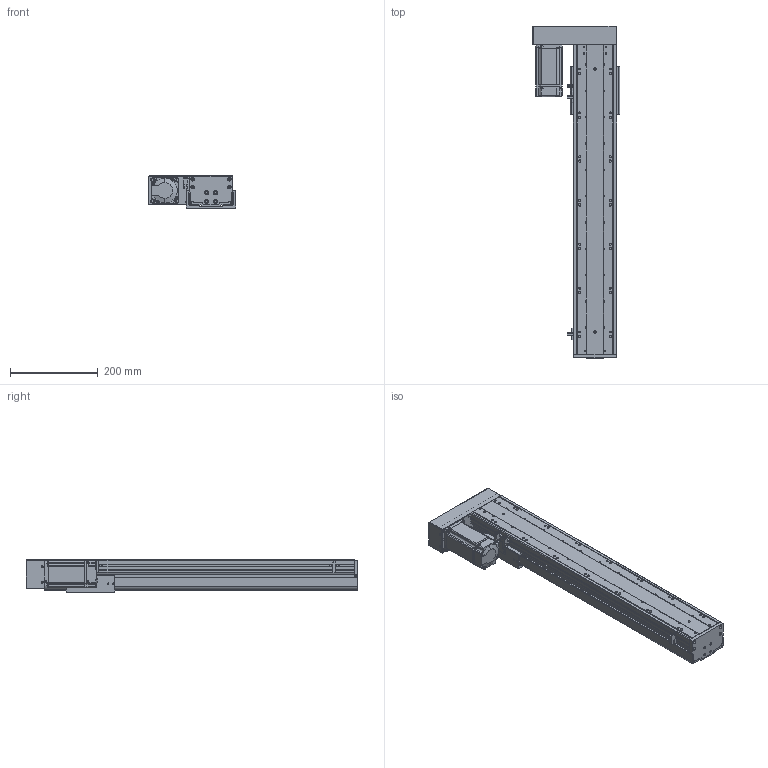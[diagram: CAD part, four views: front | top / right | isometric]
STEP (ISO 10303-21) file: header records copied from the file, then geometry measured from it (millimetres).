
FILE_DESCRIPTION (( 'STEP AP203' ), '1' );
FILE_NAME ('RY100FBS-L1610-300-LK(15双轨）.SLDASM_500.step', '2021-02-23T01:49:19', ( '盈信电脑' ), ( '东莞市道滘镇水果街19号' ), 'SwSTEP 2.0', 'SolidWorks 2012', '' );
FILE_SCHEMA (( 'CONFIG_CONTROL_DESIGN' ));
Products named in the file (14): RY100FBS-L1610-300-LK(15双轨）.SLDASM_500; 侂狟400W侜督萇儂; RY100FBS-酘衵殏萇儂欶; RY100FBS-酘衵殏萇儂啣; RY100FBS-后盖板(15双轨）; 覜茼ん672; RY100FBS-铝滑块（16丝杆）; 15; RY100FBS-嫖萇覜茼え; 滅袉蝶18-24; RY100FBS-转折支撑座（15双轨）; 滅袉蝶18-15; RY100FBS-300蛌殏奻裔啣-LK_500; RY100FBS-300蛌殏菁釱-LK_500
Assembly tree (15 placements, depth 3):
  RY100FBS-L1610-300-LK(15双轨）.SLDASM_500
    RY100FBS-300蛌殏菁釱-LK_500
    RY100FBS-300蛌殏奻裔啣-LK_500
    RY100FBS-转折支撑座（15双轨）
    滅袉蝶18-24
    滅袉蝶18-15
    RY100FBS-铝滑块（16丝杆）
    覜茼ん672  x3
    RY100FBS-嫖萇覜茼え
    侂狟400W侜督萇儂
      15
    RY100FBS-后盖板(15双轨）
    RY100FBS-酘衵殏萇儂啣
    RY100FBS-酘衵殏萇儂欶
Bounding box: 198.75 x 757 x 74 mm (x, y, z)
Volume: 2216643.5 mm3; surface area: 802226.7 mm2
Topology: 14 solids, 14 shells, 1607 faces, 4538 edges, 2942 vertices
Faces by surface type: cylinder 763, plane 692, cone 126, bspline 26
Entity records: 50477 total; most frequent: CARTESIAN_POINT 10710, DIRECTION 8101, ORIENTED_EDGE 7952, EDGE_CURVE 3976, AXIS2_PLACEMENT_3D 2921, VERTEX_POINT 2622, LINE 2259, VECTOR 2259
